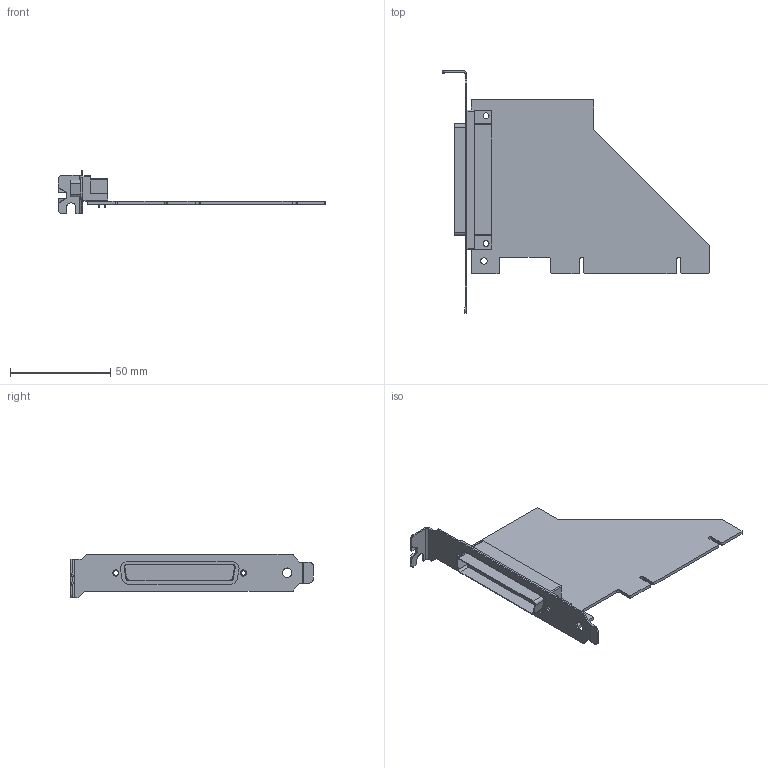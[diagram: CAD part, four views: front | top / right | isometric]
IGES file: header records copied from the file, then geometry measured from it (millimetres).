
Start section:  PTC IGES file: cu_ni_pci-6010.igs
Global section: file name: cu_ni_pci-6010.igs; native system: Pro/ENGINEER by Parametric Technology Corporation; preprocessor: 2010230; author: dkendric; organization: Unknown; date: 20110811.170028; units: inch
Bounding box: 133.18 x 120.78 x 21.59 mm (x, y, z)
Surface area: 23279.3 mm2 (no closed solid volume)
Topology: 0 solids, 0 shells, 374 faces, 1672 edges, 1672 vertices
Faces by surface type: revolution 203, bspline 171
